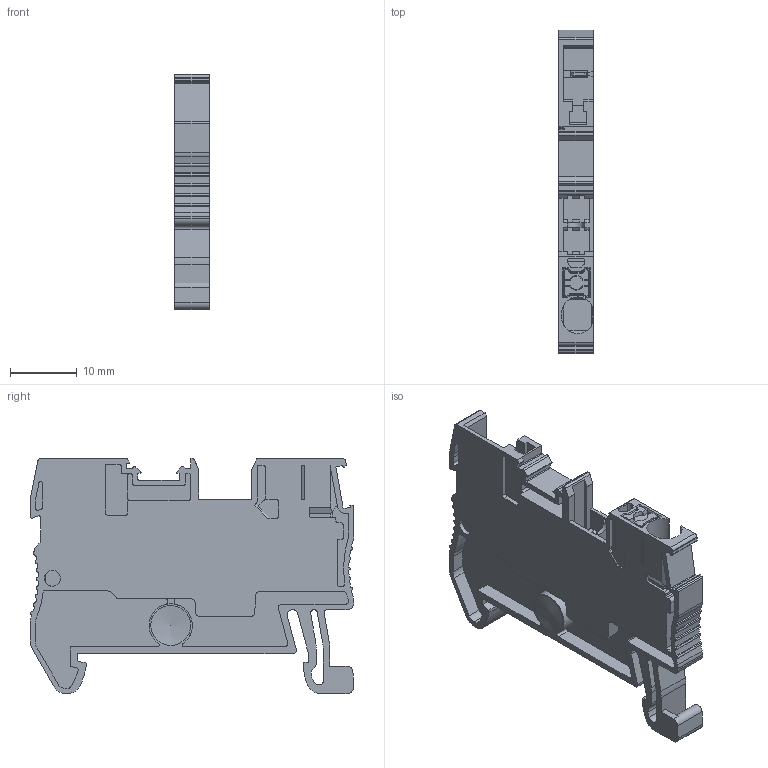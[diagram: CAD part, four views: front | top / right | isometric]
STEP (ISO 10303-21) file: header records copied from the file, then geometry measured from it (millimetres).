
FILE_DESCRIPTION(/* description */ (''),/* implementation_level */ '2;1');
FILE_NAME(/* name */ 'UPT-2.5-1P ASSY.stp',/* time_stamp */ '2024-04-16T18:01:42+08:00',/* author */ (''),/* organization */ (''),/* preprocessor_version */ 'ST-DEVELOPER v16.7',/* originating_system */ 'SIEMENS PLM Software NX 12.0',/* authorisation */ '');
FILE_SCHEMA (('AUTOMOTIVE_DESIGN { 1 0 10303 214 3 1 1 1 }'));
Length unit declared in the file: millimetre
Products named in the file (1): Admi0EFCD2780jso
Bounding box: 5.2 x 48.58 x 35.3 mm (x, y, z)
Volume: 3974.4 mm3; surface area: 6189.5 mm2
Topology: 1 solids, 3 shells, 681 faces, 1949 edges, 1285 vertices
Faces by surface type: plane 388, cylinder 272, cone 12, torus 4, bspline 4, sphere 1
Entity records: 23354 total; most frequent: CARTESIAN_POINT 4203, ORIENTED_EDGE 3876, DIRECTION 3840, EDGE_CURVE 1938, LINE 1324, VECTOR 1324, VERTEX_POINT 1281, AXIS2_PLACEMENT_3D 1258
